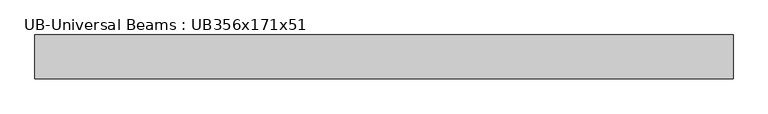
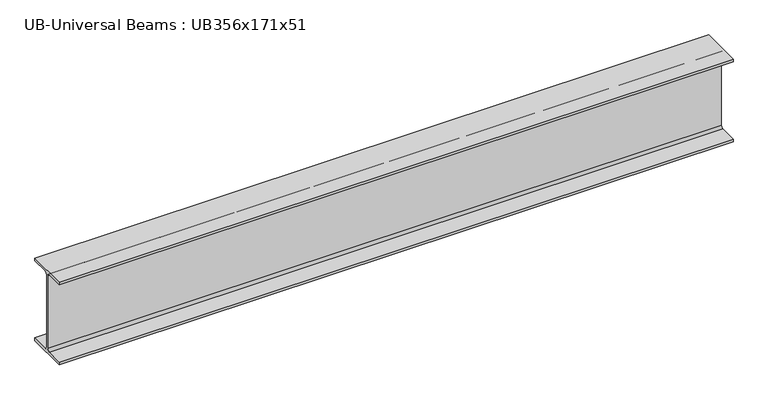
"""IFC4 building model written with IfcOpenShell, lengths in millimetres: beam geometry, UB-Universal Beams : UB356x171x51."""

from ifc_helpers import new_model, si_unit, point, frame, frame_2d, origin, place, context, project, spatial, polyline, circle_curve, trimmed, segment, composite_curve, outline, extrude, source, transform, mapped, element, save


def ub_universal_beams_ub356x171x51_ab9f3c69(model_context):
    return source(origin(), model_context, "Body", "SweptSolid", [
        extrude(outline(composite_curve([segment(polyline([(85.75, -166.0), (85.75, -177.5), (-85.75, -177.5), (-85.75, -166.0), (-13.9, -166.0)]), True, "CONTINUOUS"), segment(trimmed(circle_curve(frame_2d((-13.9, -155.8)), 10.2), [point((-13.9, -166.0))], [point((-3.7, -155.8))], True, "CARTESIAN"), True, "CONTINUOUS"), segment(polyline([(-3.7, -155.8), (-3.7, 155.8)]), True, "CONTINUOUS"), segment(trimmed(circle_curve(frame_2d((-13.9, 155.8)), 10.2), [point((-3.7, 155.8))], [point((-13.9, 166.0))], True, "CARTESIAN"), True, "CONTINUOUS"), segment(polyline([(-13.9, 166.0), (-85.75, 166.0), (-85.75, 177.5), (85.75, 177.5), (85.75, 166.0), (13.9, 166.0)]), True, "CONTINUOUS"), segment(trimmed(circle_curve(frame_2d((13.9, 155.8)), 10.2), [point((13.9, 166.0))], [point((3.7, 155.8))], True, "CARTESIAN"), True, "CONTINUOUS"), segment(polyline([(3.7, 155.8), (3.7, -155.8)]), True, "CONTINUOUS"), segment(trimmed(circle_curve(frame_2d((13.9, -155.8)), 10.2), [point((3.7, -155.8))], [point((13.9, -166.0))], True, "CARTESIAN"), True, "CONTINUOUS"), segment(polyline([(13.9, -166.0), (85.75, -166.0)]), True, "CONTINUOUS")], self_intersect=False)), frame((-1369.8, 0.0, 0.0), z_axis=(1.0, 0.0, 0.0), x_axis=(0.0, 1.0, 0.0)), (0.0, 0.0, 1.0), 2739.6),
    ])


if __name__ == "__main__":
    model = new_model("IFC4")
    model_context = context("Model", 3, world=origin())
    ifc_project = project(units=[si_unit("LENGTHUNIT", "METRE", prefix="MILLI")], contexts=[model_context])
    site = spatial("IfcSite", under=ifc_project)
    building = spatial("IfcBuilding", under=site)
    placement = place(None, origin())
    ub_universal_beams_ub356x171x51_shape = ub_universal_beams_ub356x171x51_ab9f3c69(model_context)
    element("IfcBeam", 1, ObjectType="UB-Universal Beams : UB356x171x51", at=placement, inside=building, context=model_context, shape_type="MappedRepresentation", body=[
        mapped(ub_universal_beams_ub356x171x51_shape, transform((0.0, 0.0, 0.0), x_axis=(1.0, 0.0, 0.0), y_axis=(0.0, 1.0, 0.0), z_axis=(0.0, 0.0, 1.0))),
    ])
    save(model, "model.ifc")
